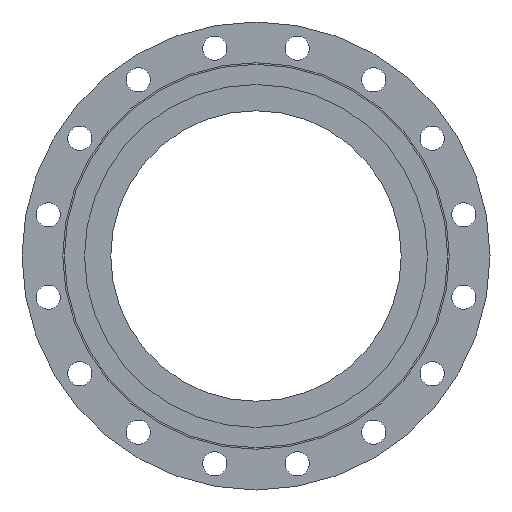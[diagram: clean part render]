
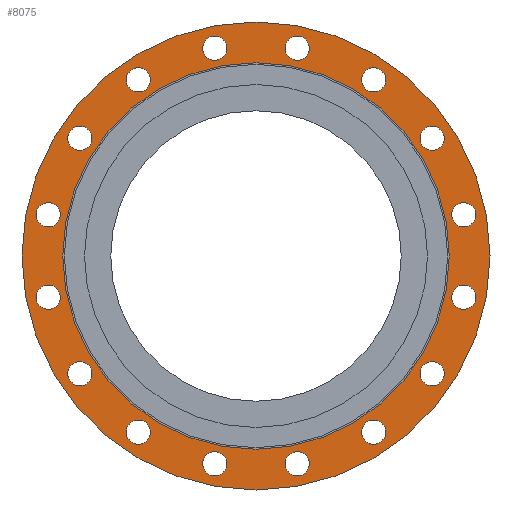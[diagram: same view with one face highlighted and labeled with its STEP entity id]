
A CAD part, left-side view. The second image highlights one B-rep face of the part: STEP entity #8075.
In plain terms, the highlighted planar face has unit normal (-1, 0, 0).
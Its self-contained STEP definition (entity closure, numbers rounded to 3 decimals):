
#8075=ADVANCED_FACE('',(#14560,#14562,#14564,#14566,#14568,#14570,#14572,#14574,
#14576,#14578,#14580,#14582,#14584,#14586,#14588,#14590,#14592,#14594),#14596,.T.);
#14560=FACE_BOUND('',#14561,.T.);
#14561=EDGE_LOOP('',(#19794,#19795));
#14562=FACE_BOUND('',#14563,.T.);
#14563=EDGE_LOOP('',(#19796));
#14564=FACE_BOUND('',#14565,.T.);
#14565=EDGE_LOOP('',(#19797));
#14566=FACE_BOUND('',#14567,.T.);
#14567=EDGE_LOOP('',(#19798));
#14568=FACE_BOUND('',#14569,.T.);
#14569=EDGE_LOOP('',(#19799));
#14570=FACE_BOUND('',#14571,.T.);
#14571=EDGE_LOOP('',(#19800));
#14572=FACE_BOUND('',#14573,.T.);
#14573=EDGE_LOOP('',(#19801));
#14574=FACE_BOUND('',#14575,.T.);
#14575=EDGE_LOOP('',(#19802));
#14576=FACE_BOUND('',#14577,.T.);
#14577=EDGE_LOOP('',(#19803));
#14578=FACE_BOUND('',#14579,.T.);
#14579=EDGE_LOOP('',(#19804));
#14580=FACE_BOUND('',#14581,.T.);
#14581=EDGE_LOOP('',(#19805));
#14582=FACE_BOUND('',#14583,.T.);
#14583=EDGE_LOOP('',(#19806));
#14584=FACE_BOUND('',#14585,.T.);
#14585=EDGE_LOOP('',(#19807));
#14586=FACE_BOUND('',#14587,.T.);
#14587=EDGE_LOOP('',(#19808));
#14588=FACE_BOUND('',#14589,.T.);
#14589=EDGE_LOOP('',(#19809));
#14590=FACE_BOUND('',#14591,.T.);
#14591=EDGE_LOOP('',(#19810));
#14592=FACE_BOUND('',#14593,.T.);
#14593=EDGE_LOOP('',(#19811,#19812));
#14594=FACE_BOUND('',#14595,.T.);
#14595=EDGE_LOOP('',(#19813));
#14596=PLANE('',#14597);
#14597=AXIS2_PLACEMENT_3D('',#14598,#14599,#14600);
#14598=CARTESIAN_POINT('',(349.142,402.95,0.));
#14599=DIRECTION('',(-1.,0.,0.));
#14600=DIRECTION('',(0.,0.,1.));
#19794=ORIENTED_EDGE('',*,*,#22423,.F.);
#19795=ORIENTED_EDGE('',*,*,#22424,.F.);
#19796=ORIENTED_EDGE('',*,*,#22316,.T.);
#19797=ORIENTED_EDGE('',*,*,#22318,.T.);
#19798=ORIENTED_EDGE('',*,*,#22320,.T.);
#19799=ORIENTED_EDGE('',*,*,#22322,.T.);
#19800=ORIENTED_EDGE('',*,*,#22324,.T.);
#19801=ORIENTED_EDGE('',*,*,#22326,.T.);
#19802=ORIENTED_EDGE('',*,*,#22328,.T.);
#19803=ORIENTED_EDGE('',*,*,#22362,.T.);
#19804=ORIENTED_EDGE('',*,*,#22364,.T.);
#19805=ORIENTED_EDGE('',*,*,#22366,.T.);
#19806=ORIENTED_EDGE('',*,*,#22368,.T.);
#19807=ORIENTED_EDGE('',*,*,#22370,.T.);
#19808=ORIENTED_EDGE('',*,*,#22372,.T.);
#19809=ORIENTED_EDGE('',*,*,#22374,.T.);
#19810=ORIENTED_EDGE('',*,*,#22376,.T.);
#19811=ORIENTED_EDGE('',*,*,#22422,.T.);
#19812=ORIENTED_EDGE('',*,*,#22421,.T.);
#19813=ORIENTED_EDGE('',*,*,#22314,.T.);
#22314=EDGE_CURVE('',#26512,#26512,#26513,.T.);
#22316=EDGE_CURVE('',#26516,#26516,#26517,.T.);
#22318=EDGE_CURVE('',#26520,#26520,#26521,.T.);
#22320=EDGE_CURVE('',#26524,#26524,#26525,.T.);
#22322=EDGE_CURVE('',#26528,#26528,#26529,.T.);
#22324=EDGE_CURVE('',#26532,#26532,#26533,.T.);
#22326=EDGE_CURVE('',#26536,#26536,#26537,.T.);
#22328=EDGE_CURVE('',#26540,#26540,#26541,.T.);
#22362=EDGE_CURVE('',#26608,#26608,#26609,.T.);
#22364=EDGE_CURVE('',#26612,#26612,#26613,.T.);
#22366=EDGE_CURVE('',#26616,#26616,#26617,.T.);
#22368=EDGE_CURVE('',#26620,#26620,#26621,.T.);
#22370=EDGE_CURVE('',#26624,#26624,#26625,.T.);
#22372=EDGE_CURVE('',#26628,#26628,#26629,.T.);
#22374=EDGE_CURVE('',#26632,#26632,#26633,.T.);
#22376=EDGE_CURVE('',#26636,#26636,#26637,.T.);
#22421=EDGE_CURVE('',#26726,#26727,#26728,.T.);
#22422=EDGE_CURVE('',#26727,#26726,#26729,.T.);
#22423=EDGE_CURVE('',#26730,#26731,#26732,.T.);
#22424=EDGE_CURVE('',#26731,#26730,#26733,.T.);
#26512=VERTEX_POINT('',#35722);
#26513=CIRCLE('',#35723,15.);
#26516=VERTEX_POINT('',#35732);
#26517=CIRCLE('',#35733,15.);
#26520=VERTEX_POINT('',#35742);
#26521=CIRCLE('',#35743,15.);
#26524=VERTEX_POINT('',#35752);
#26525=CIRCLE('',#35753,15.);
#26528=VERTEX_POINT('',#35762);
#26529=CIRCLE('',#35763,15.);
#26532=VERTEX_POINT('',#35772);
#26533=CIRCLE('',#35773,15.);
#26536=VERTEX_POINT('',#35782);
#26537=CIRCLE('',#35783,15.);
#26540=VERTEX_POINT('',#35792);
#26541=CIRCLE('',#35793,15.);
#26608=VERTEX_POINT('',#35962);
#26609=CIRCLE('',#35963,15.);
#26612=VERTEX_POINT('',#35972);
#26613=CIRCLE('',#35973,15.);
#26616=VERTEX_POINT('',#35982);
#26617=CIRCLE('',#35983,15.);
#26620=VERTEX_POINT('',#35992);
#26621=CIRCLE('',#35993,15.);
#26624=VERTEX_POINT('',#36002);
#26625=CIRCLE('',#36003,15.);
#26628=VERTEX_POINT('',#36012);
#26629=CIRCLE('',#36013,15.);
#26632=VERTEX_POINT('',#36022);
#26633=CIRCLE('',#36023,15.);
#26636=VERTEX_POINT('',#36032);
#26637=CIRCLE('',#36033,15.);
#26726=VERTEX_POINT('',#36257);
#26727=VERTEX_POINT('',#36258);
#26728=CIRCLE('',#36259,239.5);
#26729=CIRCLE('',#36263,239.5);
#26730=VERTEX_POINT('',#36267);
#26731=VERTEX_POINT('',#36268);
#26732=CIRCLE('',#36269,290.);
#26733=CIRCLE('',#36273,290.);
#35722=CARTESIAN_POINT('',(349.142,46.739,-257.456));
#35723=AXIS2_PLACEMENT_3D('',#35724,#35725,#35726);
#35724=CARTESIAN_POINT('',(349.142,61.739,-257.456));
#35725=DIRECTION('',(1.,0.,0.));
#35726=DIRECTION('',(0.,-1.,0.));
#35732=CARTESIAN_POINT('',(349.142,243.788,-218.261));
#35733=AXIS2_PLACEMENT_3D('',#35734,#35735,#35736);
#35734=CARTESIAN_POINT('',(349.142,258.788,-218.261));
#35735=DIRECTION('',(1.,0.,0.));
#35736=DIRECTION('',(0.,-1.,0.));
#35742=CARTESIAN_POINT('',(349.142,316.211,-145.837));
#35743=AXIS2_PLACEMENT_3D('',#35744,#35745,#35746);
#35744=CARTESIAN_POINT('',(349.142,331.211,-145.837));
#35745=DIRECTION('',(1.,0.,0.));
#35746=DIRECTION('',(0.,-1.,0.));
#35752=CARTESIAN_POINT('',(349.142,355.406,-51.211));
#35753=AXIS2_PLACEMENT_3D('',#35754,#35755,#35756);
#35754=CARTESIAN_POINT('',(349.142,370.406,-51.211));
#35755=DIRECTION('',(1.,0.,0.));
#35756=DIRECTION('',(0.,-1.,0.));
#35762=CARTESIAN_POINT('',(349.142,355.406,51.211));
#35763=AXIS2_PLACEMENT_3D('',#35764,#35765,#35766);
#35764=CARTESIAN_POINT('',(349.142,370.406,51.211));
#35765=DIRECTION('',(1.,0.,0.));
#35766=DIRECTION('',(0.,-1.,0.));
#35772=CARTESIAN_POINT('',(349.142,316.211,145.837));
#35773=AXIS2_PLACEMENT_3D('',#35774,#35775,#35776);
#35774=CARTESIAN_POINT('',(349.142,331.211,145.837));
#35775=DIRECTION('',(1.,0.,0.));
#35776=DIRECTION('',(0.,-1.,0.));
#35782=CARTESIAN_POINT('',(349.142,243.788,218.261));
#35783=AXIS2_PLACEMENT_3D('',#35784,#35785,#35786);
#35784=CARTESIAN_POINT('',(349.142,258.788,218.261));
#35785=DIRECTION('',(1.,0.,0.));
#35786=DIRECTION('',(0.,-1.,0.));
#35792=CARTESIAN_POINT('',(349.142,149.162,257.456));
#35793=AXIS2_PLACEMENT_3D('',#35794,#35795,#35796);
#35794=CARTESIAN_POINT('',(349.142,164.162,257.456));
#35795=DIRECTION('',(1.,0.,0.));
#35796=DIRECTION('',(0.,-1.,0.));
#35962=CARTESIAN_POINT('',(349.142,46.739,257.456));
#35963=AXIS2_PLACEMENT_3D('',#35964,#35965,#35966);
#35964=CARTESIAN_POINT('',(349.142,61.739,257.456));
#35965=DIRECTION('',(1.,0.,0.));
#35966=DIRECTION('',(0.,-1.,0.));
#35972=CARTESIAN_POINT('',(349.142,-47.887,218.261));
#35973=AXIS2_PLACEMENT_3D('',#35974,#35975,#35976);
#35974=CARTESIAN_POINT('',(349.142,-32.887,218.261));
#35975=DIRECTION('',(1.,0.,0.));
#35976=DIRECTION('',(0.,-1.,0.));
#35982=CARTESIAN_POINT('',(349.142,-120.31,145.837));
#35983=AXIS2_PLACEMENT_3D('',#35984,#35985,#35986);
#35984=CARTESIAN_POINT('',(349.142,-105.31,145.837));
#35985=DIRECTION('',(1.,0.,0.));
#35986=DIRECTION('',(0.,-1.,0.));
#35992=CARTESIAN_POINT('',(349.142,-159.506,51.211));
#35993=AXIS2_PLACEMENT_3D('',#35994,#35995,#35996);
#35994=CARTESIAN_POINT('',(349.142,-144.506,51.211));
#35995=DIRECTION('',(1.,0.,0.));
#35996=DIRECTION('',(0.,-1.,0.));
#36002=CARTESIAN_POINT('',(349.142,-159.506,-51.211));
#36003=AXIS2_PLACEMENT_3D('',#36004,#36005,#36006);
#36004=CARTESIAN_POINT('',(349.142,-144.506,-51.211));
#36005=DIRECTION('',(1.,0.,0.));
#36006=DIRECTION('',(0.,-1.,0.));
#36012=CARTESIAN_POINT('',(349.142,-120.31,-145.837));
#36013=AXIS2_PLACEMENT_3D('',#36014,#36015,#36016);
#36014=CARTESIAN_POINT('',(349.142,-105.31,-145.837));
#36015=DIRECTION('',(1.,0.,0.));
#36016=DIRECTION('',(0.,-1.,0.));
#36022=CARTESIAN_POINT('',(349.142,-47.887,-218.261));
#36023=AXIS2_PLACEMENT_3D('',#36024,#36025,#36026);
#36024=CARTESIAN_POINT('',(349.142,-32.887,-218.261));
#36025=DIRECTION('',(1.,0.,0.));
#36026=DIRECTION('',(0.,-1.,0.));
#36032=CARTESIAN_POINT('',(349.142,149.162,-257.456));
#36033=AXIS2_PLACEMENT_3D('',#36034,#36035,#36036);
#36034=CARTESIAN_POINT('',(349.142,164.162,-257.456));
#36035=DIRECTION('',(1.,0.,0.));
#36036=DIRECTION('',(0.,-1.,0.));
#36257=CARTESIAN_POINT('',(349.142,-126.55,0.));
#36258=CARTESIAN_POINT('',(349.142,352.45,0.));
#36259=AXIS2_PLACEMENT_3D('',#36260,#36261,#36262);
#36260=CARTESIAN_POINT('',(349.142,112.95,0.));
#36261=DIRECTION('',(1.,0.,0.));
#36262=DIRECTION('',(0.,-1.,0.));
#36263=AXIS2_PLACEMENT_3D('',#36264,#36265,#36266);
#36264=CARTESIAN_POINT('',(349.142,112.95,0.));
#36265=DIRECTION('',(1.,0.,0.));
#36266=DIRECTION('',(0.,1.,0.));
#36267=CARTESIAN_POINT('',(349.142,-177.05,0.));
#36268=CARTESIAN_POINT('',(349.142,402.95,0.));
#36269=AXIS2_PLACEMENT_3D('',#36270,#36271,#36272);
#36270=CARTESIAN_POINT('',(349.142,112.95,0.));
#36271=DIRECTION('',(1.,0.,0.));
#36272=DIRECTION('',(0.,-1.,0.));
#36273=AXIS2_PLACEMENT_3D('',#36274,#36275,#36276);
#36274=CARTESIAN_POINT('',(349.142,112.95,0.));
#36275=DIRECTION('',(1.,0.,0.));
#36276=DIRECTION('',(0.,1.,0.));
